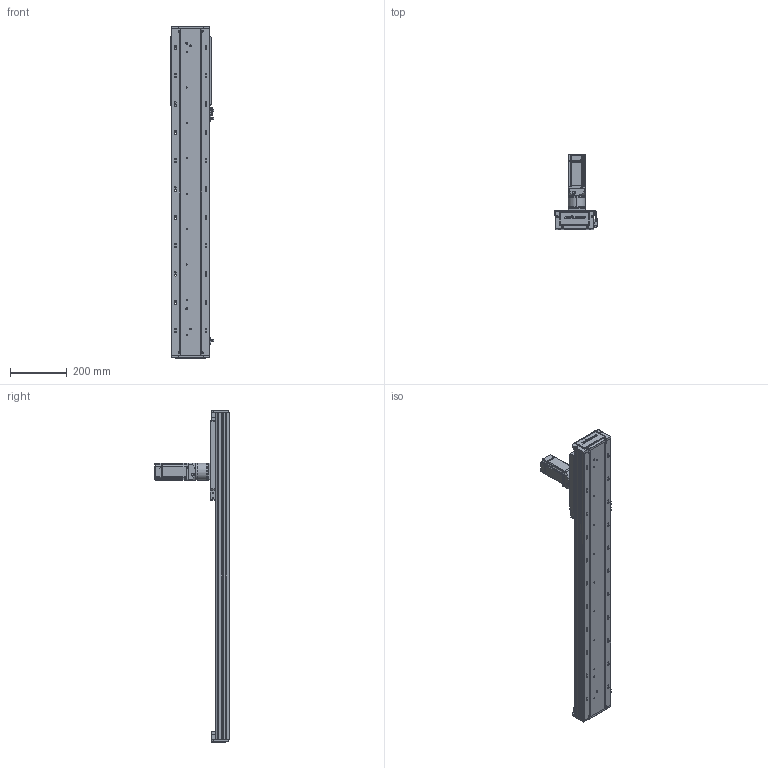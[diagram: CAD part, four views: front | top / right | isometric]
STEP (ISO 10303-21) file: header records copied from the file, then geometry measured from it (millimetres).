
FILE_DESCRIPTION (( 'STEP AP203' ), '1' );
FILE_NAME ('RY140-C-250-UK.SLDASM_800.step', '2022-03-12T01:58:32', ( '' ), ( '' ), 'SwSTEP 2.0', 'SolidWorks 2016', '' );
FILE_SCHEMA (( 'CONFIG_CONTROL_DESIGN' ));
Length unit declared in the file: millimetre
Products named in the file (12): 140蚥薯蝶輸; RY140-絳寢EGH15-300-MK_800; 15; 覜茼ん672; 60ZDF珨撰俋倛芞T1 200W M4; RY140-喘沭賑輸; RY120外置感应片(140共用）; RY140-喘謫萇儂覃誹啣; RY140-C-250-UK.SLDASM_800; 絳寢賑輸EGH15; RY140-喘沭裔啣; RY140-300齿条模组型材底座_800
Assembly tree (21 placements, depth 2):
  RY140-C-250-UK.SLDASM_800
    RY140-300齿条模组型材底座_800
    RY140-絳寢EGH15-300-MK_800  x2
    絳寢賑輸EGH15  x6
    RY140-喘沭裔啣  x2
    覜茼ん672  x3
    RY140-喘沭賑輸
    RY120外置感应片(140共用）
    RY140-喘謫萇儂覃誹啣
    140蚥薯蝶輸  x2
    60ZDF珨撰俋倛芞T1 200W M4
    15
Bounding box: 153.7 x 263.5 x 1172 mm (x, y, z)
Volume: 4566226.8 mm3; surface area: 1173326 mm2
Topology: 21 solids, 21 shells, 3302 faces, 8728 edges, 5652 vertices
Faces by surface type: plane 1636, cylinder 1396, cone 224, bspline 46
Entity records: 72579 total; most frequent: CARTESIAN_POINT 15544, DIRECTION 11623, ORIENTED_EDGE 11510, EDGE_CURVE 5755, AXIS2_PLACEMENT_3D 4116, VERTEX_POINT 3765, VECTOR 3391, LINE 3391
